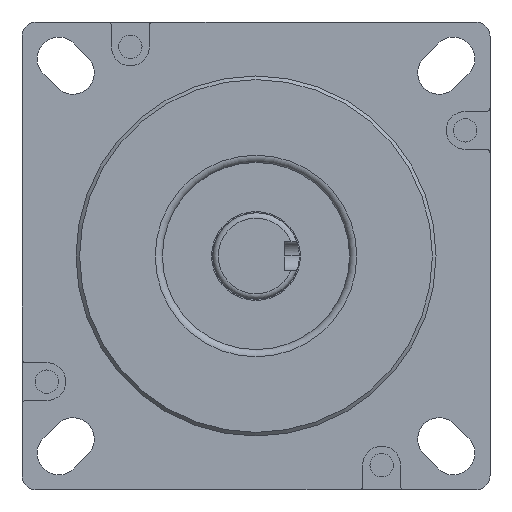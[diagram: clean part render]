
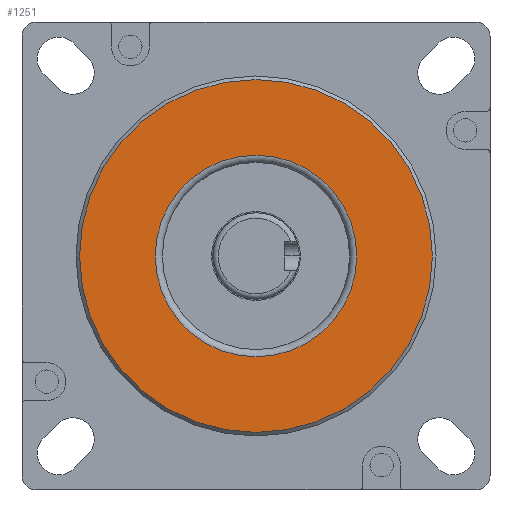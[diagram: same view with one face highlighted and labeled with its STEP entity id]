
A CAD part, front view. The second image highlights one B-rep face of the part: STEP entity #1251.
In plain terms, the highlighted planar face has unit normal (0, -1, 0).
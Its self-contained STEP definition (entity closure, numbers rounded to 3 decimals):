
#248=FACE_BOUND('',#1904,.T.);
#249=FACE_BOUND('',#1905,.T.);
#1251=ADVANCED_FACE('',(#248,#249),#1529,.T.);
#1529=PLANE('',#5236);
#1904=EDGE_LOOP('',(#2273));
#1905=EDGE_LOOP('',(#2274));
#2273=ORIENTED_EDGE('',*,*,#4250,.T.);
#2274=ORIENTED_EDGE('',*,*,#4251,.T.);
#3750=VERTEX_POINT('',#7370);
#3751=VERTEX_POINT('',#7372);
#4250=EDGE_CURVE('',#3750,#3750,#4957,.T.);
#4251=EDGE_CURVE('',#3751,#3751,#4958,.T.);
#4957=CIRCLE('',#5234,49.);
#4958=CIRCLE('',#5235,28.);
#5234=AXIS2_PLACEMENT_3D('',#7369,#5815,#5816);
#5235=AXIS2_PLACEMENT_3D('',#7371,#5817,#5818);
#5236=AXIS2_PLACEMENT_3D('',#7373,#5819,#5820);
#5815=DIRECTION('',(0.,-1.,0.));
#5816=DIRECTION('',(0.,0.,-1.));
#5817=DIRECTION('',(0.,1.,0.));
#5818=DIRECTION('',(1.,0.,0.));
#5819=DIRECTION('',(0.,-1.,0.));
#5820=DIRECTION('',(1.,0.,0.));
#7369=CARTESIAN_POINT('',(540.,-10.,50.8));
#7370=CARTESIAN_POINT('',(540.,-10.,1.8));
#7371=CARTESIAN_POINT('',(540.,-10.,50.8));
#7372=CARTESIAN_POINT('',(568.,-10.,50.8));
#7373=CARTESIAN_POINT('',(540.,-10.,50.8));
